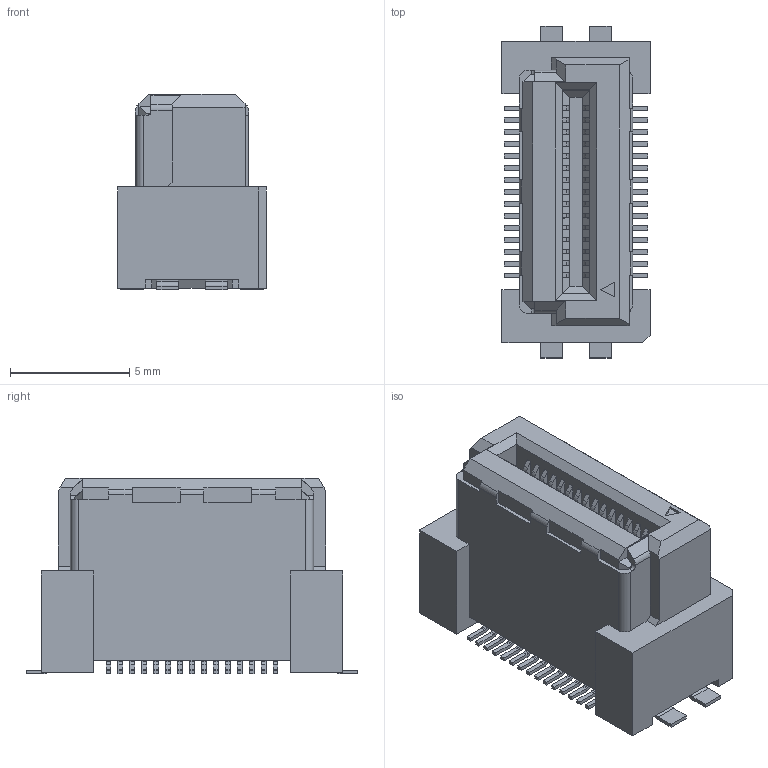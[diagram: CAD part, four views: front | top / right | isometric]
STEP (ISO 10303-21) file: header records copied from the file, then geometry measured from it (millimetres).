
FILE_DESCRIPTION(('Creo Elements/Direct Modeling STEP Export'),'2;1');
FILE_NAME('P3D582_DT10S-030S-10-T.stp','2025-05-07T16:10:56',(''),(''),'Creo Elements/Direct Modeling STEP processor for AP203 (Solid Model)','Creo Elements/Direct Modeling 20.6 25-Mar-2023 (C) Parametric Technology GmbH','');
FILE_SCHEMA(('CONFIG_CONTROL_DESIGN'));
Length unit declared in the file: millimetre
Products named in the file (2): P3D582_DT10S-030S-10-T
Assembly tree (1 placements, depth 2):
  P3D582_DT10S-030S-10-T
    P3D582_DT10S-030S-10-T
Bounding box: 6.2 x 13.9 x 8.18 mm (x, y, z)
Volume: 418.1 mm3; surface area: 534.8 mm2
Topology: 1 solids, 1 shells, 694 faces, 1868 edges, 1242 vertices
Faces by surface type: plane 522, cylinder 172
Entity records: 21757 total; most frequent: CARTESIAN_POINT 3794, ORIENTED_EDGE 3736, DIRECTION 3588, EDGE_CURVE 1868, VECTOR 1516, LINE 1516, VERTEX_POINT 1242, AXIS2_PLACEMENT_3D 1036
